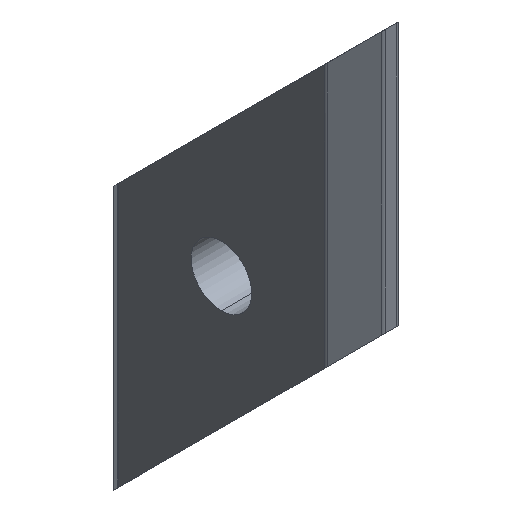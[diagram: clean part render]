
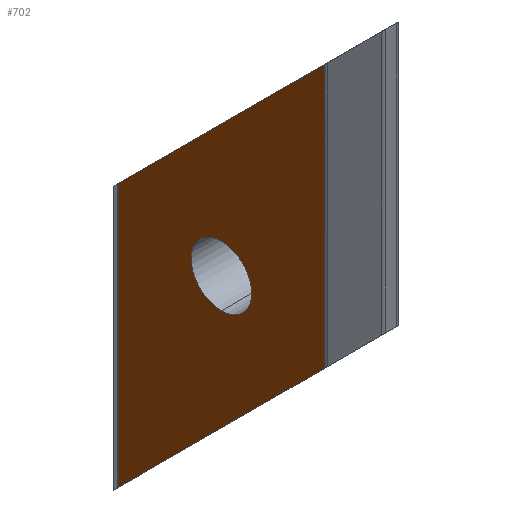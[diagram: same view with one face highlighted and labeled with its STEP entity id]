
A CAD part, isometric view. The second image highlights one B-rep face of the part: STEP entity #702.
In plain terms, the highlighted planar face has unit normal (-1, 0, 0).
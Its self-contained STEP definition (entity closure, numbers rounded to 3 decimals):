
#5 = ORIENTED_EDGE ( 'NONE', *, *, #404, .T. ) ;
#9 = EDGE_CURVE ( 'NONE', #316, #600, #602, .T. ) ;
#32 = LINE ( 'NONE', #124, #499 ) ;
#41 = CARTESIAN_POINT ( 'NONE',  ( -5.6, 11.549, 30. ) ) ;
#46 = VERTEX_POINT ( 'NONE', #56 ) ;
#52 = DIRECTION ( 'NONE',  ( -1., 0., 0. ) ) ;
#56 = CARTESIAN_POINT ( 'NONE',  ( -5.6, -11.549, -3.251 ) ) ;
#59 = FACE_BOUND ( 'NONE', #703, .T. ) ;
#72 = LINE ( 'NONE', #41, #320 ) ;
#87 = CARTESIAN_POINT ( 'NONE',  ( -5.6, -11.549, 30. ) ) ;
#106 = VECTOR ( 'NONE', #345, 1000. ) ;
#124 = CARTESIAN_POINT ( 'NONE',  ( -5.6, 15.2, -0.4 ) ) ;
#134 = DIRECTION ( 'NONE',  ( 0., 0., 1. ) ) ;
#149 = CARTESIAN_POINT ( 'NONE',  ( -5.6, 11.549, 30. ) ) ;
#161 = DIRECTION ( 'NONE',  ( 0., 1., 0. ) ) ;
#194 = FACE_OUTER_BOUND ( 'NONE', #372, .T. ) ;
#214 = CIRCLE ( 'NONE', #473, 3.4 ) ;
#234 = VERTEX_POINT ( 'NONE', #291 ) ;
#248 = DIRECTION ( 'NONE',  ( -1., 0., 0. ) ) ;
#255 = ORIENTED_EDGE ( 'NONE', *, *, #497, .F. ) ;
#263 = PLANE ( 'NONE',  #579 ) ;
#266 = CARTESIAN_POINT ( 'NONE',  ( -5.6, 0., 3.4 ) ) ;
#291 = CARTESIAN_POINT ( 'NONE',  ( -5.6, 11.549, 3.251 ) ) ;
#295 = ORIENTED_EDGE ( 'NONE', *, *, #618, .F. ) ;
#314 = CARTESIAN_POINT ( 'NONE',  ( -5.6, -11.549, 26.349 ) ) ;
#316 = VERTEX_POINT ( 'NONE', #266 ) ;
#320 = VECTOR ( 'NONE', #592, 1000. ) ;
#345 = DIRECTION ( 'NONE',  ( 0., 0., -1. ) ) ;
#349 = CARTESIAN_POINT ( 'NONE',  ( -5.6, 0., -3.4 ) ) ;
#372 = EDGE_LOOP ( 'NONE', ( #5, #639, #712, #255 ) ) ;
#404 = EDGE_CURVE ( 'NONE', #234, #621, #72, .T. ) ;
#410 = VERTEX_POINT ( 'NONE', #314 ) ;
#473 = AXIS2_PLACEMENT_3D ( 'NONE', #571, #248, #134 ) ;
#476 = LINE ( 'NONE', #87, #106 ) ;
#497 = EDGE_CURVE ( 'NONE', #234, #410, #32, .T. ) ;
#499 = VECTOR ( 'NONE', #680, 1000. ) ;
#509 = ORIENTED_EDGE ( 'NONE', *, *, #9, .F. ) ;
#522 = CARTESIAN_POINT ( 'NONE',  ( -5.6, 11.549, -26.349 ) ) ;
#531 = DIRECTION ( 'NONE',  ( 0., 0.707, -0.707 ) ) ;
#532 = AXIS2_PLACEMENT_3D ( 'NONE', #603, #52, #714 ) ;
#554 = VECTOR ( 'NONE', #531, 1000. ) ;
#563 = EDGE_CURVE ( 'NONE', #410, #46, #476, .T. ) ;
#571 = CARTESIAN_POINT ( 'NONE',  ( -5.6, 0., 0. ) ) ;
#579 = AXIS2_PLACEMENT_3D ( 'NONE', #149, #698, #161 ) ;
#592 = DIRECTION ( 'NONE',  ( 0., 0., -1. ) ) ;
#600 = VERTEX_POINT ( 'NONE', #349 ) ;
#602 = CIRCLE ( 'NONE', #532, 3.4 ) ;
#603 = CARTESIAN_POINT ( 'NONE',  ( -5.6, 0., 0. ) ) ;
#618 = EDGE_CURVE ( 'NONE', #600, #316, #214, .T. ) ;
#621 = VERTEX_POINT ( 'NONE', #522 ) ;
#630 = CARTESIAN_POINT ( 'NONE',  ( -5.6, 15.2, -30. ) ) ;
#639 = ORIENTED_EDGE ( 'NONE', *, *, #708, .F. ) ;
#665 = LINE ( 'NONE', #630, #554 ) ;
#680 = DIRECTION ( 'NONE',  ( 0., -0.707, 0.707 ) ) ;
#698 = DIRECTION ( 'NONE',  ( 1., 0., 0. ) ) ;
#702 = ADVANCED_FACE ( 'NONE', ( #59, #194 ), #263, .F. ) ;
#703 = EDGE_LOOP ( 'NONE', ( #509, #295 ) ) ;
#708 = EDGE_CURVE ( 'NONE', #46, #621, #665, .T. ) ;
#712 = ORIENTED_EDGE ( 'NONE', *, *, #563, .F. ) ;
#714 = DIRECTION ( 'NONE',  ( 0., 0., 1. ) ) ;
